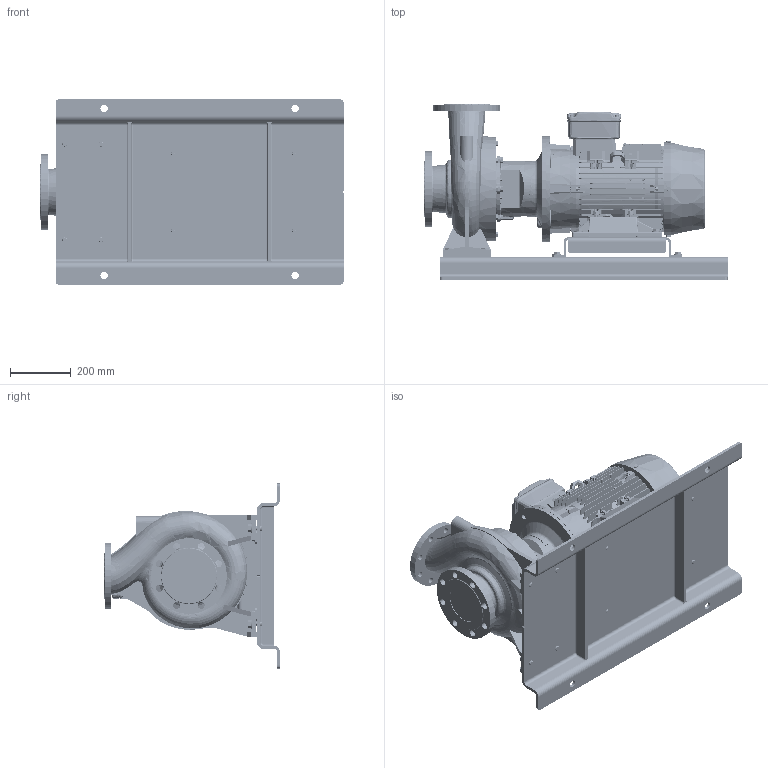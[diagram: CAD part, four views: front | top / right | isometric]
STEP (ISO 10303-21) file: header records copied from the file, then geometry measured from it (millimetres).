
FILE_DESCRIPTION (( 'STEP AP214' ), '1' );
FILE_NAME ('GSD4 100-250_11.0 & 15.0_(160ML)_W21_BP.STEP', '2026-05-08T06:00:19', ( '' ), ( '' ), 'SwSTEP 2.0', 'SolidWorks 2024', '' );
FILE_SCHEMA (( 'AUTOMOTIVE_DESIGN' ));
Length unit declared in the file: millimetre
Products named in the file (13): Parametric bolt_SFT-A303B; CGS11-5253; 100-250-160M_L_ﾃﾞﾌｫﾙﾄ; Parametric bolt and washer_SFT-A353B; Parametric Flat Washer_M16; Parametric Flat Washer_M12; Parametric bolt_SFT-A353B; Parametric bolt and washer_SFT-A297B; N7S3 GSDA-732 F1-1832945-00; Parametric bolt_SFT-A297B; GSD4 100-250_11.0 & 15.0_(160ML)_W21_BP; 160M_L_ALIE3_W21T_B35; Parametric bolt and washer_SFT-A303B
Assembly tree (22 placements, depth 3):
  GSD4 100-250_11.0 & 15.0_(160ML)_W21_BP
    100-250-160M_L_ﾃﾞﾌｫﾙﾄ
    N7S3 GSDA-732 F1-1832945-00
    CGS11-5253
    Parametric bolt and washer_SFT-A353B  x4
      Parametric bolt_SFT-A353B
      Parametric Flat Washer_M16
    Parametric bolt and washer_SFT-A297B  x4
      Parametric bolt_SFT-A297B
      Parametric Flat Washer_M12
    Parametric bolt and washer_SFT-A303B  x4
      Parametric bolt_SFT-A303B
      Parametric Flat Washer_M12
    160M_L_ALIE3_W21T_B35
Bounding box: 1000 x 580 x 610 mm (x, y, z)
Volume: 64316483.9 mm3; surface area: 4932160.8 mm2
Topology: 58 solids, 64 shells, 6497 faces, 16783 edges, 10849 vertices
Faces by surface type: plane 3817, cylinder 1339, cone 616, bspline 480, torus 229, sphere 16
Entity records: 250872 total; most frequent: CARTESIAN_POINT 111658, ORIENTED_EDGE 30542, DIRECTION 25757, EDGE_CURVE 15271, VERTEX_POINT 9880, LINE 9647, VECTOR 9647, AXIS2_PLACEMENT_3D 8055
